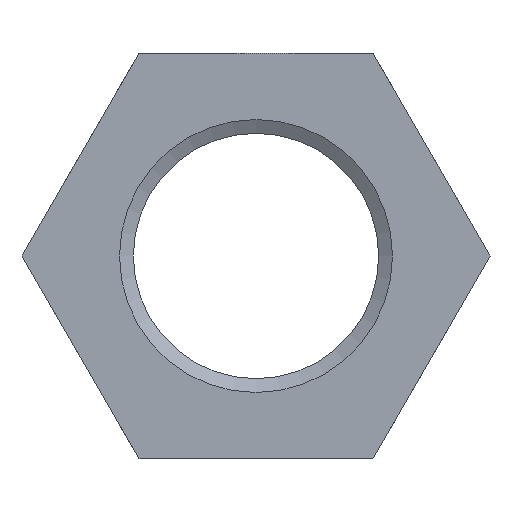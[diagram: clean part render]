
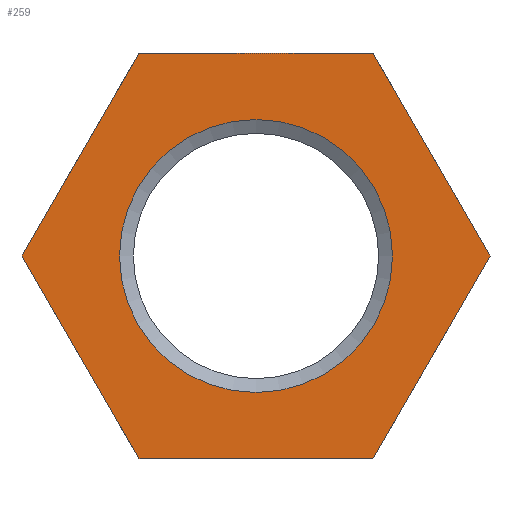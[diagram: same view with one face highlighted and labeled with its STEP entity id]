
A CAD part, front view. The second image highlights one B-rep face of the part: STEP entity #259.
In plain terms, the highlighted planar face has unit normal (0, -1, 0).
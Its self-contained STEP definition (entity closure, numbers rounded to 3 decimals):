
#14=LINE($,#435,#26);
#17=LINE($,#440,#29);
#19=LINE($,#444,#31);
#21=LINE($,#448,#33);
#23=LINE($,#452,#35);
#24=LINE($,#454,#36);
#26=VECTOR($,#334,54.848);
#29=VECTOR($,#339,54.848);
#31=VECTOR($,#343,54.848);
#33=VECTOR($,#347,54.848);
#35=VECTOR($,#351,54.848);
#36=VECTOR($,#354,54.848);
#43=PLANE($,#289);
#61=FACE_BOUND($,#98,.T.);
#62=FACE_BOUND($,#99,.T.);
#98=EDGE_LOOP($,(#222));
#99=EDGE_LOOP($,(#223,#224,#225,#226,#227,#228));
#102=CIRCLE($,#265,32.);
#112=VERTEX_POINT($,#361);
#128=VERTEX_POINT($,#432);
#129=VERTEX_POINT($,#434);
#130=VERTEX_POINT($,#438);
#131=VERTEX_POINT($,#442);
#132=VERTEX_POINT($,#446);
#133=VERTEX_POINT($,#450);
#134=EDGE_CURVE($,#112,#112,#102,.T.);
#157=EDGE_CURVE($,#129,#128,#14,.T.);
#160=EDGE_CURVE($,#128,#130,#17,.T.);
#162=EDGE_CURVE($,#130,#131,#19,.T.);
#164=EDGE_CURVE($,#131,#132,#21,.T.);
#166=EDGE_CURVE($,#132,#133,#23,.T.);
#167=EDGE_CURVE($,#133,#129,#24,.T.);
#222=ORIENTED_EDGE($,*,*,#134,.T.);
#223=ORIENTED_EDGE($,*,*,#162,.T.);
#224=ORIENTED_EDGE($,*,*,#164,.T.);
#225=ORIENTED_EDGE($,*,*,#166,.T.);
#226=ORIENTED_EDGE($,*,*,#167,.T.);
#227=ORIENTED_EDGE($,*,*,#157,.T.);
#228=ORIENTED_EDGE($,*,*,#160,.T.);
#259=ADVANCED_FACE($,(#61,#62),#43,.T.);
#265=AXIS2_PLACEMENT_3D($,#362,#295,#296);
#289=AXIS2_PLACEMENT_3D($,#455,#355,#356);
#295=DIRECTION('center_axis',(0.,1.,0.));
#296=DIRECTION('ref_axis',(-1.,0.,0.));
#334=DIRECTION($,(-1.,0.,0.));
#339=DIRECTION($,(-0.5,0.,-0.866));
#343=DIRECTION($,(0.5,0.,-0.866));
#347=DIRECTION($,(1.,0.,0.));
#351=DIRECTION($,(0.5,0.,0.866));
#354=DIRECTION($,(-0.5,0.,0.866));
#355=DIRECTION('center_axis',(0.,-1.,0.));
#356=DIRECTION('ref_axis',(0.,0.,-1.));
#361=CARTESIAN_POINT('',(-32.,0.,0.));
#362=CARTESIAN_POINT('Origin',(0.,0.,0.));
#432=CARTESIAN_POINT('',(-27.424,0.,47.5));
#434=CARTESIAN_POINT('',(27.424,0.,47.5));
#435=CARTESIAN_POINT($,(27.424,0.,47.5));
#438=CARTESIAN_POINT('',(-54.848,0.,0.));
#440=CARTESIAN_POINT($,(-27.424,0.,47.5));
#442=CARTESIAN_POINT('',(-27.424,0.,-47.5));
#444=CARTESIAN_POINT($,(-54.848,0.,0.));
#446=CARTESIAN_POINT('',(27.424,0.,-47.5));
#448=CARTESIAN_POINT($,(-27.424,0.,-47.5));
#450=CARTESIAN_POINT('',(54.848,0.,0.));
#452=CARTESIAN_POINT($,(27.424,0.,-47.5));
#454=CARTESIAN_POINT($,(54.848,0.,0.));
#455=CARTESIAN_POINT('Origin',(0.,0.,0.));
